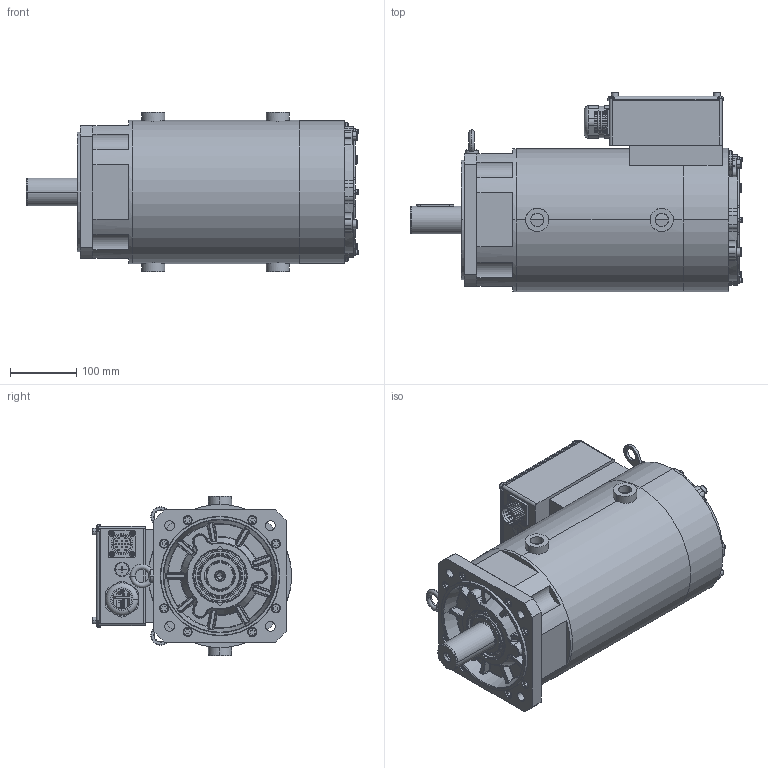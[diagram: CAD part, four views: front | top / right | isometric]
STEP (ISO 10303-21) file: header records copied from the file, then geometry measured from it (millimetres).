
FILE_DESCRIPTION((''),'2;1');
FILE_NAME('11101-02121_SW0004','2026-03-09T14:05:49',('admin'),(''),'CREO PARAMETRIC BY PTC INC, 2019080','CREO PARAMETRIC BY PTC INC, 2019080','');
FILE_SCHEMA(('CONFIG_CONTROL_DESIGN'));
Length unit declared in the file: millimetre
Products named in the file (1): 11101-02121_SW0004
Bounding box: 501 x 300.5 x 240 mm (x, y, z)
Surface area: 1149188.8 mm2 (no closed solid volume)
Topology: 0 solids, 110 shells, 1389 faces, 5250 edges, 3860 vertices
Faces by surface type: plane 560, cylinder 527, cone 104, torus 96, bspline 82, sphere 20
Entity records: 70547 total; most frequent: CARTESIAN_POINT 26729, DIRECTION 9283, ORIENTED_EDGE 7987, EDGE_CURVE 5232, VERTEX_POINT 3860, AXIS2_PLACEMENT_3D 3177, VECTOR 2929, LINE 2929
